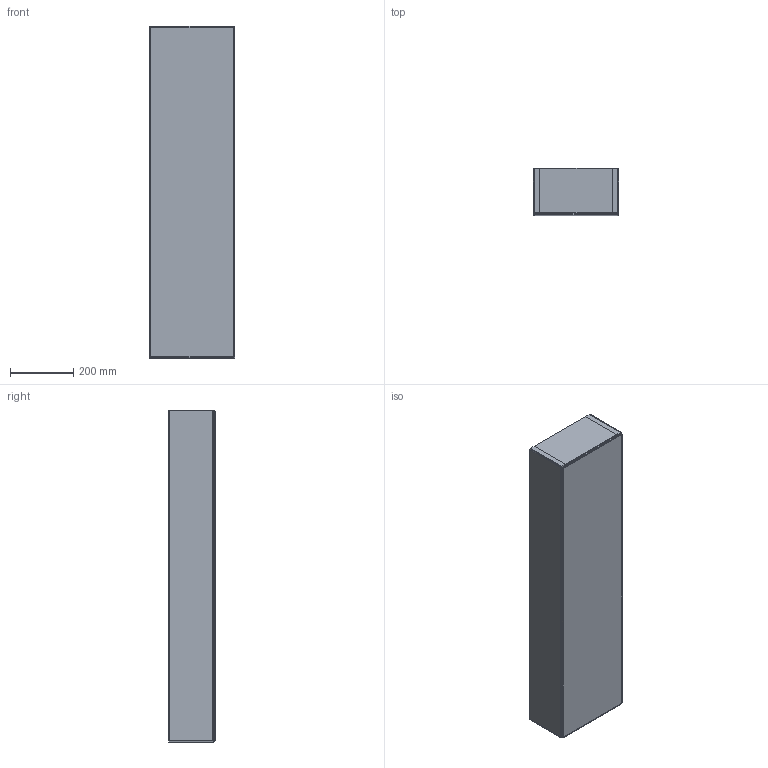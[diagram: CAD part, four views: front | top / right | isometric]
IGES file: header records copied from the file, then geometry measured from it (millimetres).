
Start section: Data from Parasolid IGES Translator 19.0.9, Copyright(c) 2006 Siemens PL M Software. All Rights Reserved.
Global section: file name: noorth-mirror-H 105 D 14,7 W 27_9054.igs; native system: By Siemens PLM Incorporated; preprocessor: XPlus GENERIC/IGES 19.0.9; author: Noname; organization: Noname; date: 20200519.094836; units: metre
Bounding box: 269.82 x 147 x 1050 mm (x, y, z)
Volume: 9875522.7 mm3; surface area: 2663899.6 mm2
Topology: 12 solids, 12 shells, 196 faces, 372 edges, 200 vertices
Faces by surface type: plane 196
